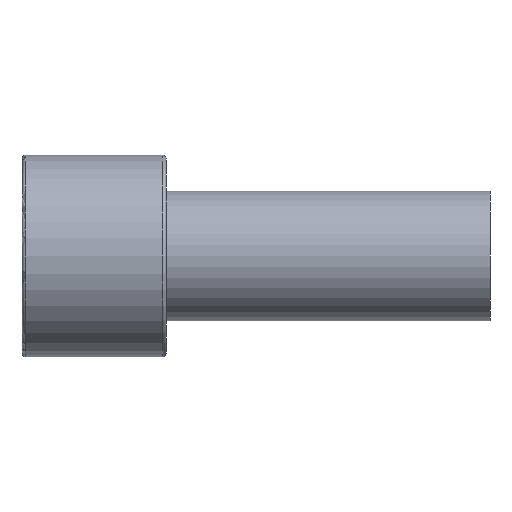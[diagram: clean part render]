
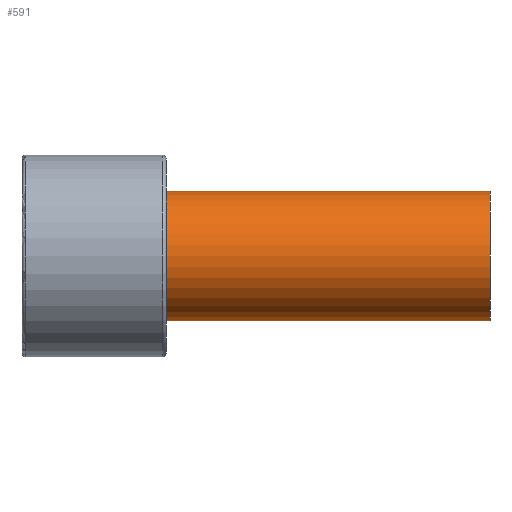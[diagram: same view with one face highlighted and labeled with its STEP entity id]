
A CAD part, front view. The second image highlights one B-rep face of the part: STEP entity #591.
In plain terms, the highlighted cylindrical face has radius 9 mm (diameter 18 mm), a partial arc.
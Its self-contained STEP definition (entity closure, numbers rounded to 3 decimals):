
#425=CARTESIAN_POINT('Vertex',(65.,0.,9.)) ;
#428=CARTESIAN_POINT('Axis2P3D Location',(65.,0.,0.)) ;
#432=CARTESIAN_POINT('Vertex',(65.,-9.,0.)) ;
#435=CARTESIAN_POINT('Axis2P3D Location',(65.,0.,0.)) ;
#439=CARTESIAN_POINT('Vertex',(65.,0.,-9.)) ;
#531=CARTESIAN_POINT('Line Origine',(65.,0.,9.)) ;
#535=CARTESIAN_POINT('Vertex',(20.,0.,9.)) ;
#538=CARTESIAN_POINT('Line Origine',(65.,0.,-9.)) ;
#542=CARTESIAN_POINT('Vertex',(20.,0.,-9.)) ;
#566=CARTESIAN_POINT('Axis2P3D Location',(65.,0.,0.)) ;
#571=CARTESIAN_POINT('Axis2P3D Location',(20.,0.,0.)) ;
#575=CARTESIAN_POINT('Vertex',(20.,-9.,0.)) ;
#578=CARTESIAN_POINT('Axis2P3D Location',(20.,0.,0.)) ;
#429=DIRECTION('Axis2P3D Direction',(1.,0.,-0.)) ;
#436=DIRECTION('Axis2P3D Direction',(1.,0.,-0.)) ;
#532=DIRECTION('Vector Direction',(-1.,0.,0.)) ;
#539=DIRECTION('Vector Direction',(-1.,0.,0.)) ;
#567=DIRECTION('Axis2P3D Direction',(-1.,-0.,-0.)) ;
#568=DIRECTION('Axis2P3D XDirection',(0.,0.,-1.)) ;
#572=DIRECTION('Axis2P3D Direction',(-1.,-0.,-0.)) ;
#579=DIRECTION('Axis2P3D Direction',(-1.,-0.,-0.)) ;
#430=AXIS2_PLACEMENT_3D('Circle Axis2P3D',#428,#429,$) ;
#437=AXIS2_PLACEMENT_3D('Circle Axis2P3D',#435,#436,$) ;
#569=AXIS2_PLACEMENT_3D('Cylinder Axis2P3D',#566,#567,#568) ;
#573=AXIS2_PLACEMENT_3D('Circle Axis2P3D',#571,#572,$) ;
#580=AXIS2_PLACEMENT_3D('Circle Axis2P3D',#578,#579,$) ;
#584=ORIENTED_EDGE('',*,*,#544,.T.) ;
#585=ORIENTED_EDGE('',*,*,#441,.F.) ;
#586=ORIENTED_EDGE('',*,*,#434,.F.) ;
#587=ORIENTED_EDGE('',*,*,#537,.T.) ;
#588=ORIENTED_EDGE('',*,*,#577,.T.) ;
#589=ORIENTED_EDGE('',*,*,#582,.T.) ;
#533=VECTOR('Line Direction',#532,1.) ;
#540=VECTOR('Line Direction',#539,1.) ;
#591=ADVANCED_FACE('367-18X65',(#590),#570,.T.) ;
#431=CIRCLE('generated circle',#430,9.) ;
#438=CIRCLE('generated circle',#437,9.) ;
#574=CIRCLE('generated circle',#573,9.) ;
#581=CIRCLE('generated circle',#580,9.) ;
#570=CYLINDRICAL_SURFACE('generated cylinder',#569,9.) ;
#434=EDGE_CURVE('',#426,#433,#431,.T.) ;
#441=EDGE_CURVE('',#433,#440,#438,.T.) ;
#537=EDGE_CURVE('',#426,#536,#534,.T.) ;
#544=EDGE_CURVE('',#543,#440,#541,.F.) ;
#577=EDGE_CURVE('',#536,#576,#574,.F.) ;
#582=EDGE_CURVE('',#576,#543,#581,.F.) ;
#583=EDGE_LOOP('',(#584,#585,#586,#587,#588,#589)) ;
#590=FACE_OUTER_BOUND('',#583,.T.) ;
#534=LINE('Line',#531,#533) ;
#541=LINE('Line',#538,#540) ;
#426=VERTEX_POINT('',#425) ;
#433=VERTEX_POINT('',#432) ;
#440=VERTEX_POINT('',#439) ;
#536=VERTEX_POINT('',#535) ;
#543=VERTEX_POINT('',#542) ;
#576=VERTEX_POINT('',#575) ;
